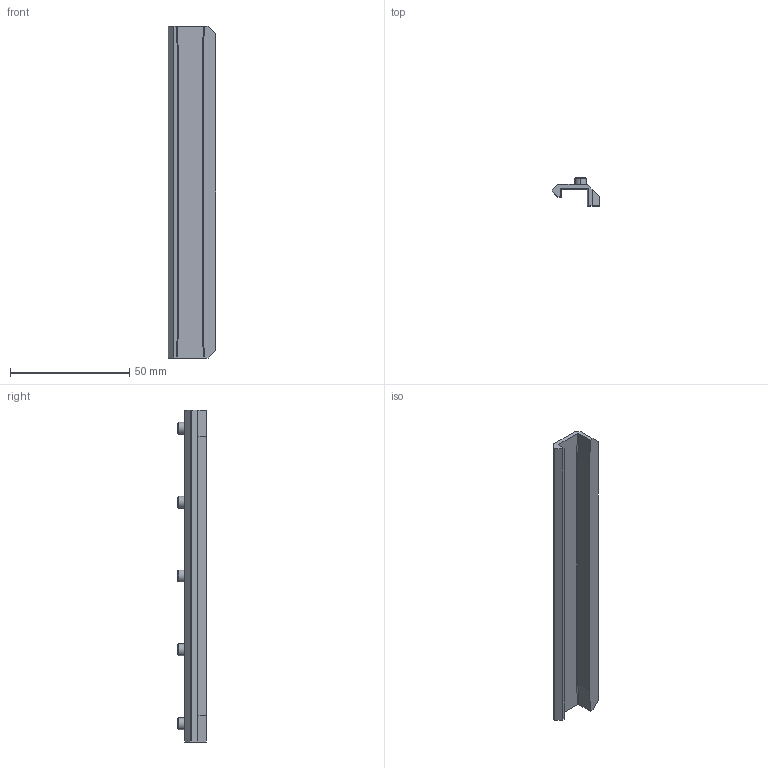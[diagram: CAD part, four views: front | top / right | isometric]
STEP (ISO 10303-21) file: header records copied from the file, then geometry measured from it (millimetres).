
FILE_DESCRIPTION (( 'STEP AP214' ), '1' );
FILE_NAME ('Seat Rail Insert Long.STEP', '2024-10-21T21:29:33', ( '' ), ( '' ), 'SwSTEP 2.0', 'SolidWorks 2011', '' );
FILE_SCHEMA (( 'AUTOMOTIVE_DESIGN' ));
Length unit declared in the file: inch
Products named in the file (1): Seat Rail Insert Long
Bounding box: 19.81 x 11.92 x 139.19 mm (x, y, z)
Volume: 9375.9 mm3; surface area: 8447.9 mm2
Topology: 1 solids, 1 shells, 50 faces, 115 edges, 72 vertices
Faces by surface type: plane 24, cylinder 16, cone 10
Entity records: 1437 total; most frequent: CARTESIAN_POINT 262, DIRECTION 239, ORIENTED_EDGE 230, EDGE_CURVE 115, AXIS2_PLACEMENT_3D 81, VECTOR 77, LINE 77, VERTEX_POINT 72
